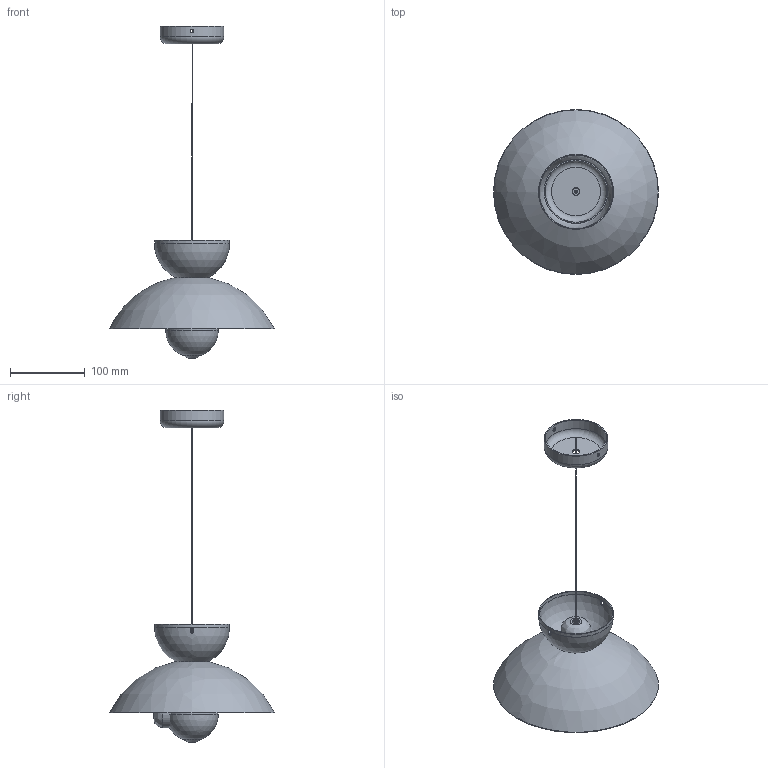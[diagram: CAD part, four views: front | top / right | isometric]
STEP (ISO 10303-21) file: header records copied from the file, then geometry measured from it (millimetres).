
FILE_DESCRIPTION( ( 'STEP AP203' ), '1' );
FILE_NAME( '//srvbf/BF Disegni/CIRCLE/CIRCLE-S Sospensione 3D.stp', '2020-10-16T06:13:45', ( ' ' ), ( ' ' ), 'XStep 1.0', ' ', ' ' );
FILE_SCHEMA( ( 'CONFIG_CONTROL_DESIGN) ( )' ) );
Length unit declared in the file: metre
Products named in the file (8): Assem1; 1; 2; 3; 4; 5; 6; 7
Bounding box: 220 x 220 x 442.7 mm (x, y, z)
Volume: 592243.1 mm3; surface area: 408369 mm2
Topology: 14 solids, 14 shells, 112 faces, 252 edges, 166 vertices
Faces by surface type: plane 50, cylinder 36, sphere 14, bspline 4, cone 4, torus 4
Full cylindrical faces by diameter (mm): 1 x2, 4 x2, 5 x4, 10 x4, 26 x2, 36 x2, 40 x4, 82 x2, 85 x2, 98 x2, 100 x2
Entity records: 2208 total; most frequent: CARTESIAN_POINT 752, DIRECTION 238, ORIENTED_EDGE 174, AXIS2_PLACEMENT_3D 109, EDGE_LOOP 96, EDGE_CURVE 87, FACE_OUTER_BOUND 78, VERTEX_POINT 71
